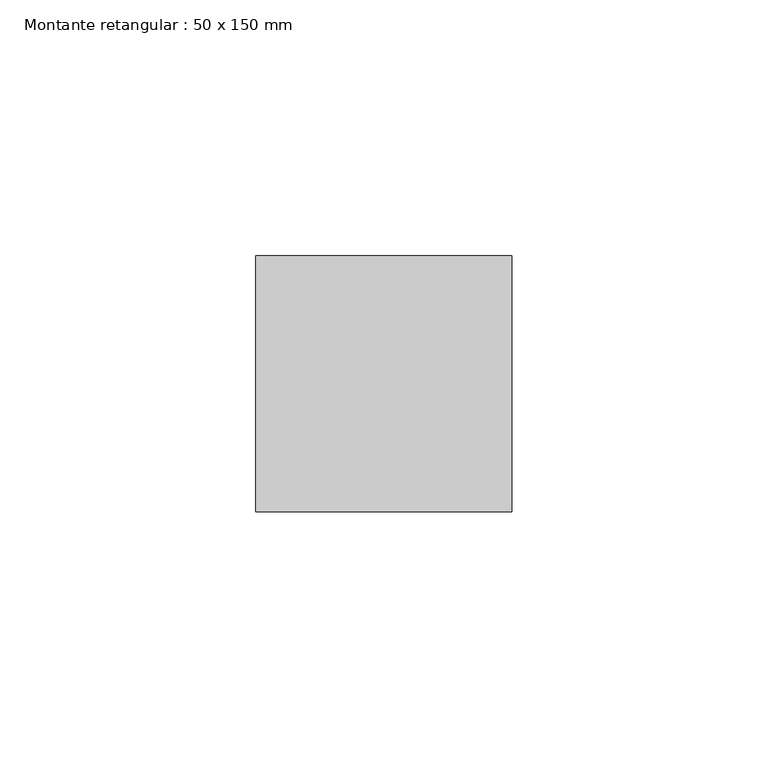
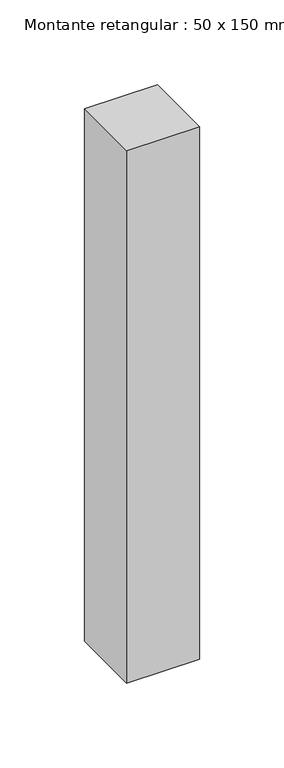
"""IFC4 building model written with IfcOpenShell, lengths in millimetres: member geometry, Montante retangular : 50 x 150 mm."""

from ifc_helpers import new_model, si_unit, frame, origin, place, context, project, spatial, polyline, outline, extrude, source, transform, mapped, element, save


def montante_retangular_50_x_150_mm_2fe26a7b(model_context):
    return source(origin(), model_context, "Body", "SweptSolid", [
        extrude(outline(polyline([(0.0, 25.0), (0.0, -25.0), (-50.0, -25.0), (-50.0, 25.0), (0.0, 25.0)])), frame((0.0, 0.0, -384.7437176), z_axis=(0.0, 0.0, 1.0), x_axis=(1.0, 0.0, 0.0)), (0.0, 0.0, 1.0), 384.7437176),
    ])


if __name__ == "__main__":
    model = new_model("IFC4")
    model_context = context("Model", 3, world=origin())
    ifc_project = project(units=[si_unit("LENGTHUNIT", "METRE", prefix="MILLI")], contexts=[model_context])
    site = spatial("IfcSite", under=ifc_project)
    building = spatial("IfcBuilding", under=site)
    placement = place(None, origin())
    montante_retangular_50_x_150_mm_shape = montante_retangular_50_x_150_mm_2fe26a7b(model_context)
    element("IfcMember", 1, ObjectType="Montante retangular : 50 x 150 mm", at=placement, inside=building, context=model_context, shape_type="MappedRepresentation", body=[
        mapped(montante_retangular_50_x_150_mm_shape, transform((0.0, 0.0, 0.0), x_axis=(1.0, 0.0, 0.0), y_axis=(0.0, 1.0, 0.0), z_axis=(0.0, 0.0, 1.0))),
    ])
    save(model, "model.ifc")
